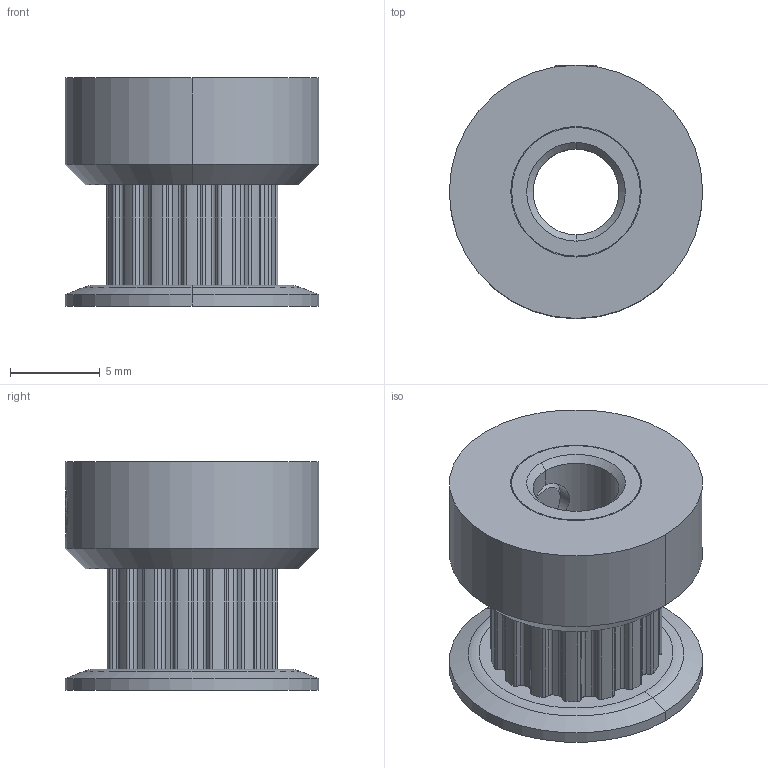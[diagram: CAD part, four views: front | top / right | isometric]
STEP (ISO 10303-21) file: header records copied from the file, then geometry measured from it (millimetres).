
FILE_DESCRIPTION((''),'2;1');
FILE_NAME('42471','2011-01-23T',('carefree'),(''),'PRO/ENGINEER BY PARAMETRIC TECHNOLOGY CORPORATION, 2005030','PRO/ENGINEER BY PARAMETRIC TECHNOLOGY CORPORATION, 2005030','');
FILE_SCHEMA(('CONFIG_CONTROL_DESIGN'));
Length unit declared in the file: inch
Products named in the file (1): 42471
Bounding box: 14.1 x 14.1 x 12.7 mm (x, y, z)
Volume: 1160 mm3; surface area: 1144.9 mm2
Topology: 1 solids, 1 shells, 168 faces, 468 edges, 308 vertices
Faces by surface type: cylinder 91, plane 61, cone 14, torus 2
Entity records: 5710 total; most frequent: CARTESIAN_POINT 1160, DIRECTION 1002, ORIENTED_EDGE 936, EDGE_CURVE 468, AXIS2_PLACEMENT_3D 370, VERTEX_POINT 308, VECTOR 262, LINE 262
